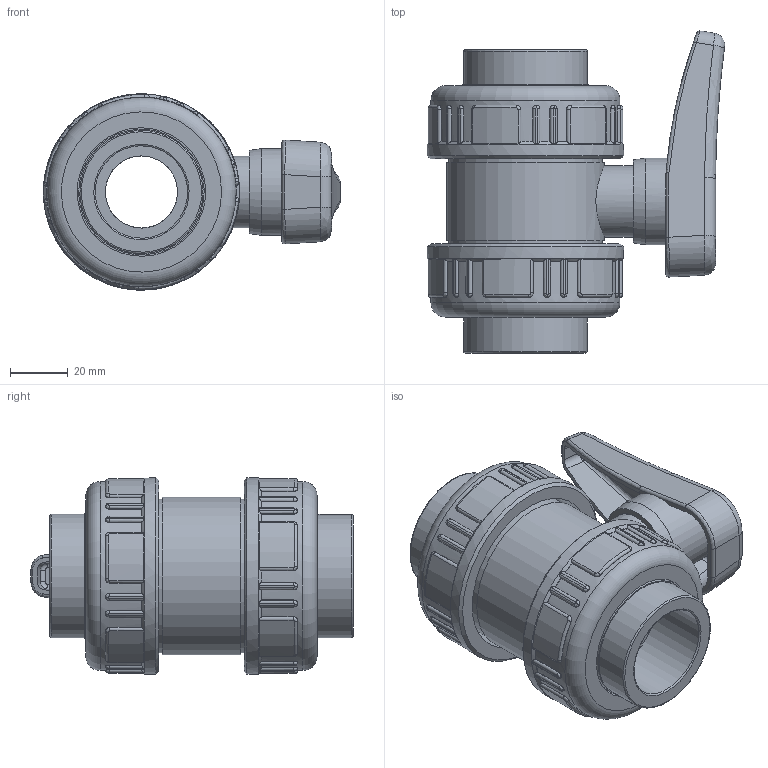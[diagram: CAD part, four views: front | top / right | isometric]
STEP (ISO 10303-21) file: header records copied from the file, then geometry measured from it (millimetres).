
FILE_DESCRIPTION(/* description */ (''),/* implementation_level */ '2;1');
FILE_NAME(/* name */ 'C:\Users\POLYPIPE\Desktop\DATASET INVENTOR\LIBRERIA EFFAST\3D_VALVOLE\3D_VALVOLE A SFERA\3D_BV\3D_BDRBVD\3D_BDRBVD0320.stp',/* time_stamp */ '2018-01-23T15:54:02+01:00',/* author */ ('POLYPIPE'),/* organization */ (''),/* preprocessor_version */ 'ST-DEVELOPER v16.1',/* originating_system */ 'Autodesk Inventor 2016',/* authorisation */ '');
FILE_SCHEMA (('CONFIG_CONTROL_DESIGN'));
Length unit declared in the file: centimetre
Products named in the file (1): 3D_BDRBVD0320
Bounding box: 103.02 x 111.56 x 67.99 mm (x, y, z)
Volume: 227681.7 mm3; surface area: 72595.4 mm2
Topology: 3 solids, 3 shells, 521 faces, 1336 edges, 837 vertices
Faces by surface type: plane 171, cylinder 163, bspline 162, torus 20, cone 5
Full cylindrical faces by diameter (mm): 15.8 x1, 24.7 x1, 25 x3, 30 x1, 32 x2, 40.2 x2, 42.7 x2, 43.5 x2, 44.5 x2, 51 x2, 53.3 x2, 54.7 x1, 56.7 x2, 65.5 x2, 68 x2
Entity records: 60588 total; most frequent: CARTESIAN_POINT 48333, ORIENTED_EDGE 2578, DIRECTION 2160, EDGE_CURVE 1289, AXIS2_PLACEMENT_3D 832, VERTEX_POINT 830, EDGE_LOOP 585, STYLED_ITEM 524
